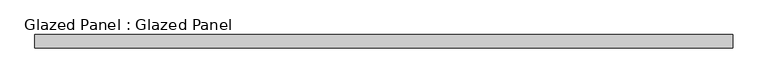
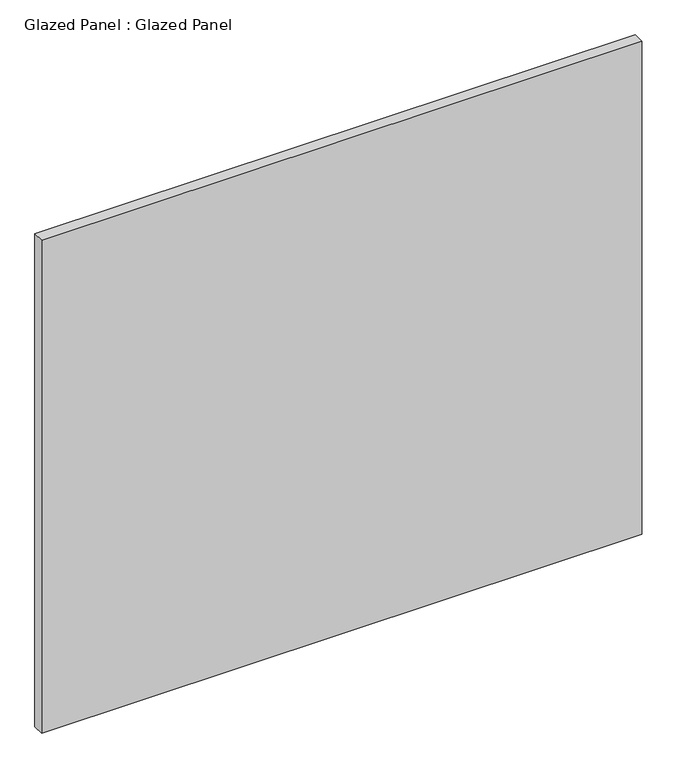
"""IFC4 building model written with IfcOpenShell, lengths in millimetres: plate geometry, Glazed Panel : Glazed Panel."""

from ifc_helpers import new_model, si_unit, origin, origin_with_axes, place, context, project, spatial, polyline, outline, extrude, source, transform, mapped, element, save


def glazed_panel_glazed_panel_ad4a4512(model_context):
    return source(origin(), model_context, "Body", "SweptSolid", [
        extrude(outline(polyline([(665.95625, 38.1), (-665.95625, 38.1), (-665.95625, 63.5), (665.95625, 63.5), (665.95625, 38.1)])), origin_with_axes(), (0.0, 0.0, 1.0), 1155.7),
    ])


if __name__ == "__main__":
    model = new_model("IFC4")
    model_context = context("Model", 3, world=origin())
    ifc_project = project(units=[si_unit("LENGTHUNIT", "METRE", prefix="MILLI")], contexts=[model_context])
    site = spatial("IfcSite", under=ifc_project)
    building = spatial("IfcBuilding", under=site)
    placement = place(None, origin())
    glazed_panel_glazed_panel_shape = glazed_panel_glazed_panel_ad4a4512(model_context)
    element("IfcPlate", 1, ObjectType="Glazed Panel : Glazed Panel", at=placement, inside=building, context=model_context, shape_type="MappedRepresentation", body=[
        mapped(glazed_panel_glazed_panel_shape, transform((0.0, 0.0, 0.0), x_axis=(1.0, 0.0, 0.0), y_axis=(0.0, 1.0, 0.0), z_axis=(0.0, 0.0, 1.0))),
    ])
    save(model, "model.ifc")
